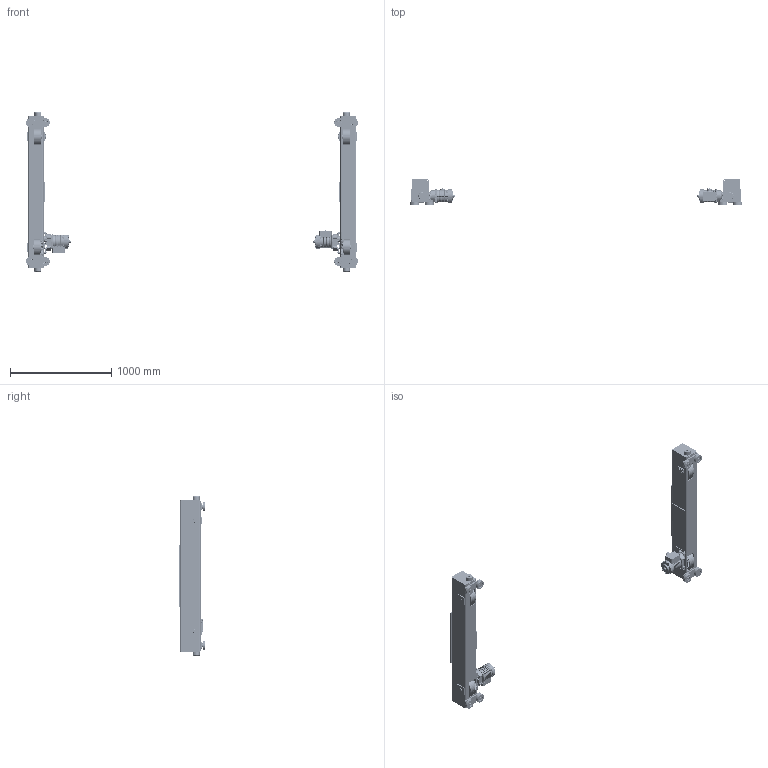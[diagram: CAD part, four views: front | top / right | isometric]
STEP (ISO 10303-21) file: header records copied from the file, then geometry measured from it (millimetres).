
FILE_DESCRIPTION (( 'STEP AP214' ), '1' );
FILE_NAME ('TMS-3-0535.STEP', '2026-08-12T19:47:21', ( '' ), ( '' ), 'SwSTEP 2.0', 'SolidWorks 2026', '' );
FILE_SCHEMA (( 'AUTOMOTIVE_DESIGN' ));
Length unit declared in the file: inch
Products named in the file (71): G1JE025S9603; 9093101_9093101; T800-600-004_58.125; 6240817X_6240817B; 9091254_9091254; G1JE025S9310; N6QO720E91013; 6240401; N6QO720E91341; 9012514_9012514; 6240812; G1JE025S9609; 6240601_0535 - 25# RAIL; 6240805X_6240805B; N6QO310E9108_N6QO3101108 DOMESTIC; 9798526_9798526; N6Q0720E9102; 6240301; G1JE025S9701; 9093327_9093327; 62587; 6240820; MS555010_MS555010; 6232404; 6240818; 62588; 9047252_9047252; G1JE025S9301; J1BE1-0602020_AS 1420 - M6 x 20-S; 6240819; 9012709_Rectangular section spring washer BS 4464 - 16 (Type B); 6240825; 5204612; 9093330_9093330; 6240808; G1JE025S9707; G1JM025S_NORMAL; 9000707; 9012711_9012711; 9012707_9012707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
Assembly tree (240 placements, depth 4):
  TMS-3-0535
    6240501_0535 - 25# RAIL
      6240301
        T800-600-004_58.125
        6240820
        6240818
        6240819
        6240819
        6240819
      6240812  x2
      5204612
      T7G117030
      6240808
      6240809
      6240810
      6240817X_6240817B  x2
        6240805X_6240805B
        6232305
    6240601_0535 - 25# RAIL
      6240401
        T800-600-004_58.125
        6240820
        6240818
        6240819
        6240819
        6240819
      6240812  x2
      5204612
      T7G117030
      6240808
      6240809
      6240810
      6240817X_6240817B  x2
        6240805X_6240805B
        6232305
    N6QO3101108_N6QO3101108  x8
      N6QO310E9108_N6QO3101108 DOMESTIC
      9047252_9047252
      9000605
    6232404  x8
    9047125_B27.7M - 3AM1-23  x8
    N6QL210207  x4
    9012514_9012514  x4
    9012711_9012711  x20
    9093101_9093101  x4
    6240816  x4
    6240825  x4
    9093327_9093327  x8
    N6Q07201102  x2
      N6Q0720E9102
      9000707
    N6QO7201101  x2
      N6QO720E91311
      N6QO720E91013
      9000707
      J1WS011-10060_GB_FASTENER_WASHER_SW 6
      J1BE1-0602020_AS 1420 - M6 x 20-S
      N6QO720E91341
    G1JM025S_ROTATED 180 DEGREES
      G1JE025S9303
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Bounding box: 3281.85 x 261.94 x 1573.42 mm (x, y, z)
Volume: 30655087 mm3; surface area: 7602302.8 mm2
Topology: 264 solids, 328 shells, 18662 faces, 46994 edges, 29650 vertices
Faces by surface type: plane 8968, cylinder 4480, bspline 2134, cone 2002, torus 892, sphere 186
Entity records: 198405 total; most frequent: CARTESIAN_POINT 84563, ORIENTED_EDGE 23328, DIRECTION 21314, EDGE_CURVE 11668, AXIS2_PLACEMENT_3D 8072, VERTEX_POINT 7425, VECTOR 5170, LINE 5170
